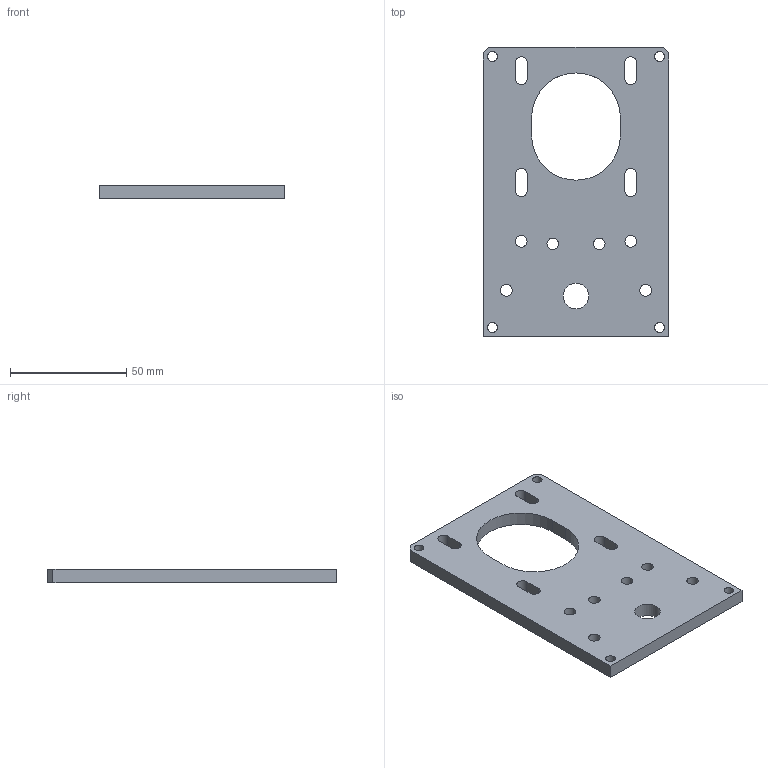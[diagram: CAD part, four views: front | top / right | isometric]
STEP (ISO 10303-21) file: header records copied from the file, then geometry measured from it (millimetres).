
FILE_DESCRIPTION(('FreeCAD Model'),'2;1');
FILE_NAME('Open CASCADE Shape Model','2021-05-04T09:58:11',('Author'),( ''),'Open CASCADE STEP processor 7.5','FreeCAD','Unknown');
FILE_SCHEMA(('AUTOMOTIVE_DESIGN { 1 0 10303 214 1 1 1 1 }'));
Length unit declared in the file: millimetre
Products named in the file (1): NEMA 23 Reduction Stand Off Plate v1
Bounding box: 80 x 124.77 x 6 mm (x, y, z)
Volume: 48192.6 mm3; surface area: 21128.4 mm2
Topology: 1 solids, 1 shells, 39 faces, 131 edges, 94 vertices
Faces by surface type: cylinder 21, plane 18
Full cylindrical faces by diameter (mm): 4.2 x4, 5 x6, 11 x1
Entity records: 3491 total; most frequent: CARTESIAN_POINT 899, DIRECTION 473, LINE 269, VECTOR 269, ORIENTED_EDGE 262, PCURVE 262, DEFINITIONAL_REPRESENTATION 262, EDGE_CURVE 131
